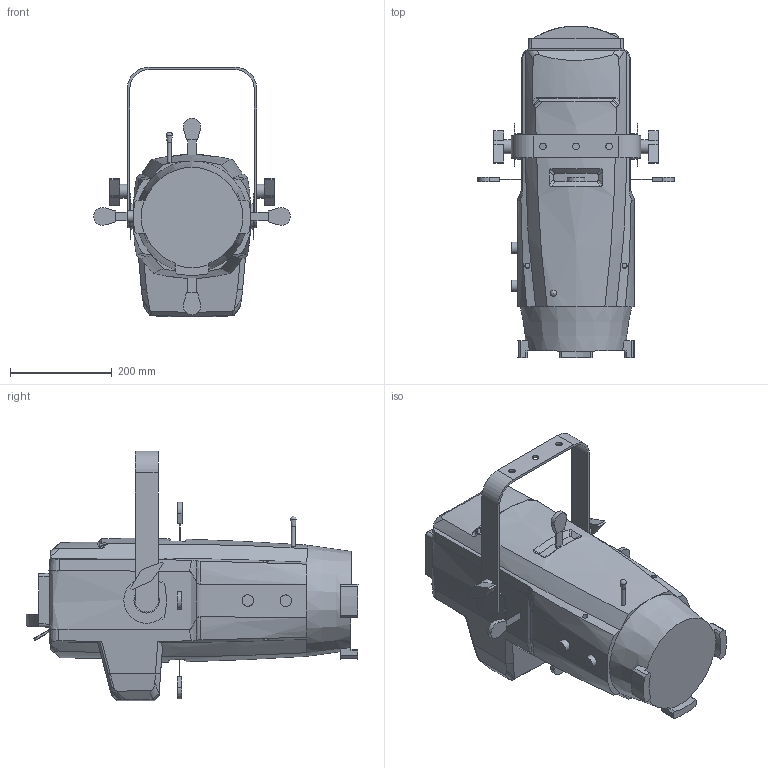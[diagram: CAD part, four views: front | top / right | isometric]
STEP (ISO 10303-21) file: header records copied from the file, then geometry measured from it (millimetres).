
FILE_DESCRIPTION(/* description */ ('Unknown'),/* implementation_level */ '2;1');
FILE_NAME(/* name */ '3D_Robin T11',/* time_stamp */ '2021-08-19T13:39:20+02:00',/* author */ ('Unknown'),/* organization */ ('Unknown'),/* preprocessor_version */ 'ST-DEVELOPER v16.7',/* originating_system */ 'Solid Edge',/* authorisation */ 'Unknown');
FILE_SCHEMA (('AUTOMOTIVE_DESIGN {1 0 10303 214 3 1 1}'));
Length unit declared in the file: millimetre
Products named in the file (3): 3D Zjednodušený model T11; Z嫛鮀; Robin T11
Assembly tree (2 placements, depth 2):
  3D Zjednodušený model T11
    Z嫛鮀
    Robin T11
Bounding box: 385.44 x 651.46 x 490.46 mm (x, y, z)
Volume: 28948464.3 mm3; surface area: 747056.3 mm2
Topology: 2 solids, 2 shells, 273 faces, 740 edges, 496 vertices
Faces by surface type: plane 133, bspline 86, cylinder 41, cone 10, sphere 2, torus 1
Full cylindrical faces by diameter (mm): 8.183 x1, 13 x3, 14.977 x1, 22.477 x2, 27.871 x2, 50 x2
Entity records: 11438 total; most frequent: CARTESIAN_POINT 5447, ORIENTED_EDGE 1418, DIRECTION 863, EDGE_CURVE 709, VERTEX_POINT 483, B_SPLINE_CURVE_WITH_KNOTS 326, EDGE_LOOP 324, FACE_BOUND 324
